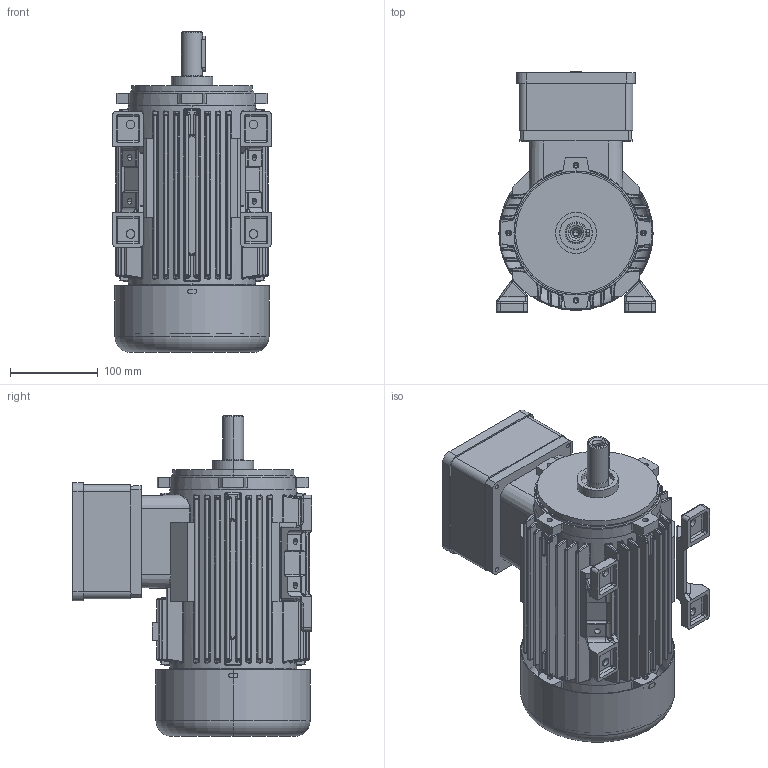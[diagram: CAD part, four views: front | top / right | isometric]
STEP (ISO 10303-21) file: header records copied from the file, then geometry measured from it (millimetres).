
FILE_DESCRIPTION (( 'STEP AP214' ), '1' );
FILE_NAME ('20.18453-A 7AT 90 B3 Exde STANDK.STEP', '2018-05-09T12:35:47', ( '' ), ( '' ), 'SwSTEP 2.0', 'SolidWorks 2017', '' );
FILE_SCHEMA (( 'AUTOMOTIVE_DESIGN' ));
Length unit declared in the file: millimetre
Products named in the file (1): 20.18453-A 7AT 90 B3 Exde STANDK
Bounding box: 181.17 x 273.79 x 366 mm (x, y, z)
Volume: 2736534.5 mm3; surface area: 884698.4 mm2
Topology: 13 solids, 13 shells, 2934 faces, 7133 edges, 4258 vertices
Faces by surface type: plane 1098, cylinder 904, bspline 647, torus 131, cone 100, sphere 54
Entity records: 140122 total; most frequent: CARTESIAN_POINT 47223, ORIENTED_EDGE 13858, DIRECTION 11999, EDGE_CURVE 6929, AXIS2_PLACEMENT_3D 4311, VERTEX_POINT 4256, VECTOR 3377, LINE 3377
